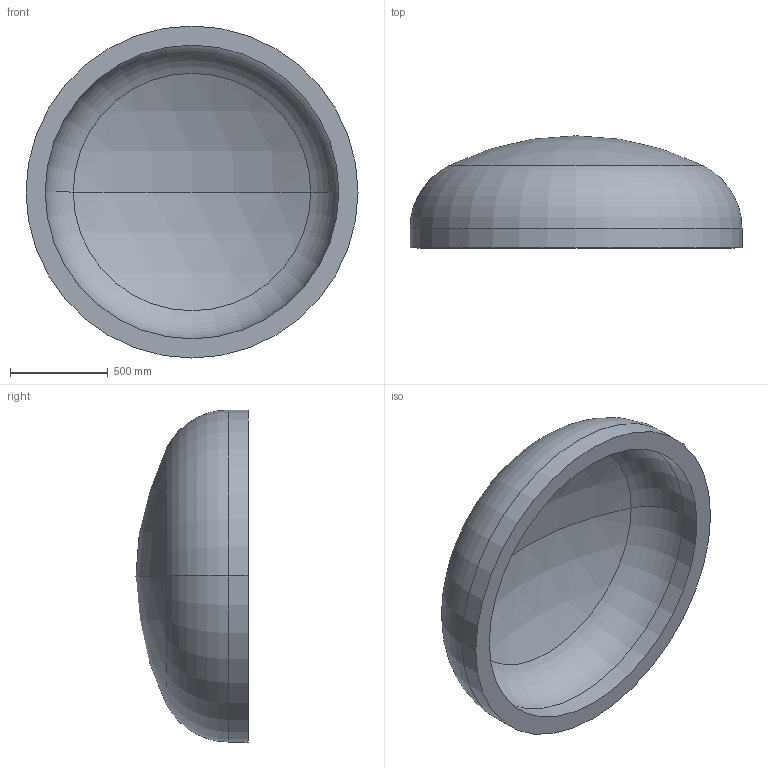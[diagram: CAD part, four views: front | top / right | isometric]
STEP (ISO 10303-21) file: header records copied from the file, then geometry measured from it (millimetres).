
FILE_DESCRIPTION (( 'STEP AP203' ), '1' );
FILE_NAME ('DIN 28013 Korbbogenform_-_Boden DIN 28013 - 1700 x 100 - I - s=98.step', '2016-07-01T12:07:23', ( '' ), ( '' ), 'SwSTEP 2.0', 'SolidWorks 2013', '' );
FILE_SCHEMA (( 'CONFIG_CONTROL_DESIGN' ));
Length unit declared in the file: millimetre
Products named in the file (1): DIN 28013 Korbbogenform_-_Boden DIN 28013 - 1700 x 100 - I - s=98
Bounding box: 1700 x 574.16 x 1700 mm (x, y, z)
Volume: 335126870.7 mm3; surface area: 7352654.2 mm2
Topology: 1 solids, 1 shells, 13 faces, 24 edges, 14 vertices
Faces by surface type: torus 4, cylinder 4, sphere 4, plane 1
Entity records: 407 total; most frequent: DIRECTION 72, CARTESIAN_POINT 52, ORIENTED_EDGE 48, AXIS2_PLACEMENT_3D 34, EDGE_CURVE 24, CIRCLE 20, VERTEX_POINT 14, EDGE_LOOP 14
